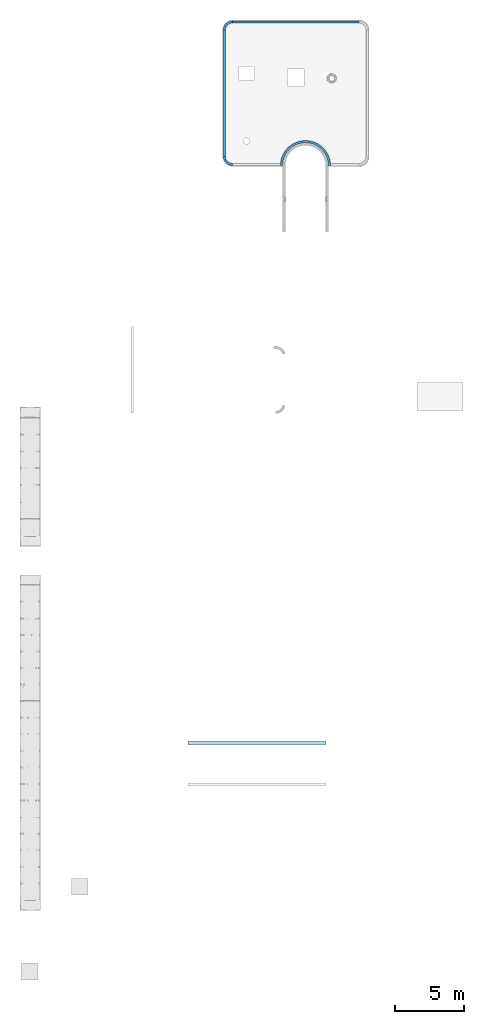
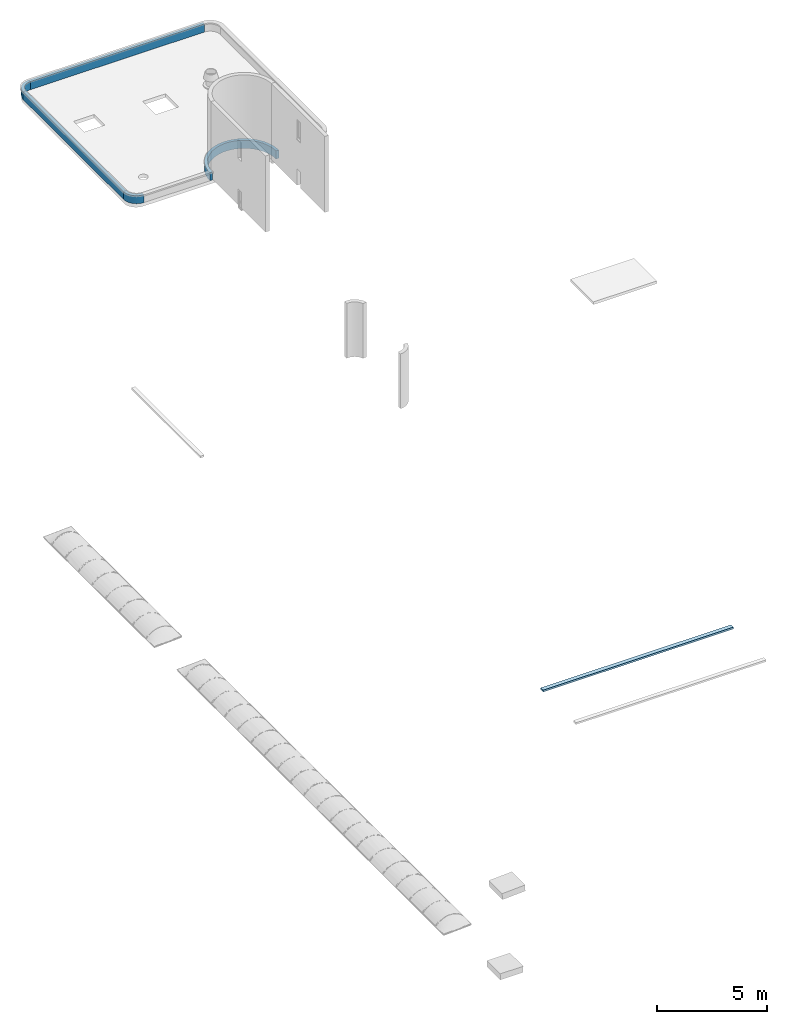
# One storey, part 1 of 2: 5 walls, 1 slab.
"""IFC2X3 building model written with IfcOpenShell, lengths in metres."""

from ifc_helpers import new_model, entity, si_unit, converted_unit, derived_unit, direction, frame, frame_2d, origin, place, context, subcontext, project, spatial, polyline, circle_curve, parameter, trimmed, segment, composite_curve, rectangle, outline, extrude, material, layer, layer_set, layer_usage, type_object, element, save


model = new_model("IFC2X3")

# Units and contexts
model_context = context("Model", 3, precision=1e-05, world=origin(), true_north=direction((6.12303176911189e-17, 1.0)))
body_context = subcontext(model_context, "Body", "Model", "MODEL_VIEW")
ifc_project = project(units=[si_unit("LENGTHUNIT", "METRE"), si_unit("AREAUNIT", "SQUARE_METRE"), si_unit("VOLUMEUNIT", "CUBIC_METRE"), converted_unit("PLANEANGLEUNIT", "DEGREE", entity("IfcRatioMeasure", 0.0174532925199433), si_unit("PLANEANGLEUNIT", "RADIAN"), dimensions=[0, 0, 0, 0, 0, 0, 0]), si_unit("MASSUNIT", "GRAM", prefix="KILO"), derived_unit("MASSDENSITYUNIT", [(si_unit("MASSUNIT", "GRAM", prefix="KILO"), 1), (si_unit("LENGTHUNIT", "METRE"), -3)]), derived_unit("MOMENTOFINERTIAUNIT", [(si_unit("LENGTHUNIT", "METRE"), 4)]), si_unit("TIMEUNIT", "SECOND"), si_unit("FREQUENCYUNIT", "HERTZ"), si_unit("THERMODYNAMICTEMPERATUREUNIT", "DEGREE_CELSIUS"), derived_unit("THERMALTRANSMITTANCEUNIT", [(si_unit("MASSUNIT", "GRAM", prefix="KILO"), 1), (si_unit("THERMODYNAMICTEMPERATUREUNIT", "KELVIN"), -1), (si_unit("TIMEUNIT", "SECOND"), -3)]), derived_unit("VOLUMETRICFLOWRATEUNIT", [(si_unit("LENGTHUNIT", "METRE"), 3), (si_unit("TIMEUNIT", "SECOND"), -1)]), si_unit("ELECTRICCURRENTUNIT", "AMPERE"), si_unit("ELECTRICVOLTAGEUNIT", "VOLT"), si_unit("POWERUNIT", "WATT"), si_unit("FORCEUNIT", "NEWTON", prefix="KILO"), si_unit("ILLUMINANCEUNIT", "LUX"), si_unit("LUMINOUSFLUXUNIT", "LUMEN"), si_unit("LUMINOUSINTENSITYUNIT", "CANDELA"), derived_unit("USERDEFINED", [(si_unit("MASSUNIT", "GRAM", prefix="KILO"), -1), (si_unit("LENGTHUNIT", "METRE"), -2), (si_unit("TIMEUNIT", "SECOND"), 3), (si_unit("LUMINOUSFLUXUNIT", "LUMEN"), 1)]), derived_unit("LINEARVELOCITYUNIT", [(si_unit("LENGTHUNIT", "METRE"), 1), (si_unit("TIMEUNIT", "SECOND"), -1)]), si_unit("PRESSUREUNIT", "PASCAL"), derived_unit("USERDEFINED", [(si_unit("LENGTHUNIT", "METRE"), -2), (si_unit("MASSUNIT", "GRAM", prefix="KILO"), 1), (si_unit("TIMEUNIT", "SECOND"), -2)]), derived_unit("LINEARFORCEUNIT", [(si_unit("MASSUNIT", "GRAM", prefix="KILO"), 1), (si_unit("LENGTHUNIT", "METRE"), 1), (si_unit("TIMEUNIT", "SECOND"), -2), (si_unit("LENGTHUNIT", "METRE"), -1)]), derived_unit("PLANARFORCEUNIT", [(si_unit("MASSUNIT", "GRAM", prefix="KILO"), 1), (si_unit("LENGTHUNIT", "METRE"), 1), (si_unit("TIMEUNIT", "SECOND"), -2), (si_unit("LENGTHUNIT", "METRE"), -2)])], contexts=[model_context])

# Site, building, storey
site_placement = place(None, origin())
site = spatial("IfcSite", under=ifc_project, at=site_placement, Name="Default", CompositionType="ELEMENT")
building_placement = place(site_placement, origin())
building = spatial("IfcBuilding", under=site, at=building_placement, CompositionType="ELEMENT")
storey_placement = place(building_placement, frame((0.0, 0.0, 5.77187276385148)))
storey = spatial("IfcBuildingStorey", under=building, at=storey_placement, Name="Niveau 1  - 03", CompositionType="ELEMENT", Elevation=5.77187276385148)

# Slab
ifc_material_1 = material(Name="étanchéité Isolation")
ifc_layer_1 = layer(ifc_material_1, 0.1)
ifc_layer_set_1 = layer_set([ifc_layer_1], Name="Sol:étanchéité terrasse 100mm")
ifc_layer_usage_1 = layer_usage(ifc_layer_set_1, "AXIS3", "POSITIVE", 0.0)
slab_type = type_object("IfcSlabType", Name="Sol:étanchéité terrasse 100mm", PredefinedType="FLOOR", material=ifc_layer_set_1)
slab_placement = place(storey_placement, origin())
element("IfcSlab", 1, at=slab_placement, inside=storey, type_object=slab_type, material=ifc_layer_usage_1, Name="Sol:étanchéité terrasse 100mm", ObjectType="Sol:étanchéité terrasse 100mm", PredefinedType="FLOOR", context=body_context, shape_type="SweptSolid", body=[
    extrude(rectangle(XDim=0.21999999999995, YDim=9.99631947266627, at=frame_2d((8.65973959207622e-15, 1.33226762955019e-15), x_axis=(1.0, 0.0))), frame((-20.7958294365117, -26.1885714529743, -0.539123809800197), z_axis=(0.0, 0.0, -1.0), x_axis=(0.0, 1.0, 0.0)), (0.0, 0.0, 1.0), 0.1),
])

# Walls
ifc_material_2 = material(Name="Mur par défaut")
ifc_layer_2 = layer(ifc_material_2, 0.15)
ifc_layer_set_2 = layer_set([ifc_layer_2], Name="Mur de base:@_Générique - Int. 150 mm")
ifc_layer_usage_2 = layer_usage(ifc_layer_set_2, "AXIS2", "NEGATIVE", 0.075)
wall_type = type_object("IfcWallType", Name="Mur de base:@_Générique - Int. 150 mm", PredefinedType="STANDARD", material=ifc_layer_set_2)
wall_1_placement = place(storey_placement, frame((-13.4151651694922, 26.0316444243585, 0.0), z_axis=(0.0, 0.0, 1.0), x_axis=(-1.0, 0.0, 0.0)))
element("IfcWallStandardCase", 2, at=wall_1_placement, inside=storey, type_object=wall_type, material=ifc_layer_usage_2, Name="Mur de base:@_Générique - Int. 150 mm", ObjectType="Mur de base:@_Générique - Int. 150 mm", context=body_context, shape_type="SweptSolid", body=[
    extrude(rectangle(XDim=9.15038525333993, YDim=0.150000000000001, at=frame_2d((4.57519262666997, 0.0), x_axis=(-1.0, 0.0))), origin(), (0.0, 0.0, 1.0), 0.45),
])
ifc_layer_usage_3 = layer_usage(ifc_layer_set_2, "AXIS2", "POSITIVE", -0.075)
wall_2_placement = place(storey_placement, frame((-23.1691642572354, 25.4280305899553, 0.0), z_axis=(0.0, 0.0, 1.0), x_axis=(1.06472614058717e-09, 1.0, 0.0)))
element("IfcWallStandardCase", 3, at=wall_2_placement, inside=storey, type_object=wall_type, material=ifc_layer_usage_3, Name="Mur de base:@_Générique - Int. 150 mm", ObjectType="Mur de base:@_Générique - Int. 150 mm", context=body_context, shape_type="SweptSolid", body=[
    extrude(outline(composite_curve([segment(trimmed(circle_curve(frame_2d((0.0, -0.60361383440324), x_axis=(1.0, 0.0)), 0.67861383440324), [parameter(6.10043110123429e-08)], [parameter(90.0000000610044)], True, "PARAMETER"), True, "CONTINUOUS"), segment(polyline([(0.0, 0.0750000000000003), (0.0, -0.0750000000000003)]), True, "CONTINUOUS"), segment(trimmed(circle_curve(frame_2d((0.0, -0.60361383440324), x_axis=(1.0, 0.0)), 0.52861383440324), [parameter(6.10043110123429e-08)], [parameter(90.0000000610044)], True, "PARAMETER"), False, "CONTINUOUS"), segment(polyline([(0.528613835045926, -0.603613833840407), (0.678613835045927, -0.603613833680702)]), True, "CONTINUOUS")], self_intersect=False)), origin(), (0.0, 0.0, 1.0), 0.45),
])
ifc_layer_usage_4 = layer_usage(ifc_layer_set_2, "AXIS2", "NEGATIVE", 0.075)
wall_3_placement = place(storey_placement, frame((-23.1691642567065, 16.2947745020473, 0.0), z_axis=(0.0, 0.0, 1.0), x_axis=(0.0, 1.0, 0.0)))
element("IfcWallStandardCase", 4, at=wall_3_placement, inside=storey, type_object=wall_type, material=ifc_layer_usage_4, Name="Mur de base:@_Générique - Int. 150 mm", ObjectType="Mur de base:@_Générique - Int. 150 mm", context=body_context, shape_type="SweptSolid", body=[
    extrude(rectangle(XDim=9.13325608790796, YDim=0.150000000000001, at=frame_2d((4.56662804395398, 5.13478148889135e-16), x_axis=(-1.0, 0.0))), origin(), (0.0, 0.0, 1.0), 0.45),
])
ifc_layer_usage_5 = layer_usage(ifc_layer_set_2, "AXIS2", "POSITIVE", -0.075)
wall_4_placement = place(storey_placement, frame((-22.5655504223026, 15.6911606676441, 0.0), z_axis=(0.0, 0.0, 1.0), x_axis=(-1.0, -1.0697612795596e-09, 0.0)))
element("IfcWallStandardCase", 5, at=wall_4_placement, inside=storey, type_object=wall_type, material=ifc_layer_usage_5, Name="Mur de base:@_Générique - Int. 150 mm", ObjectType="Mur de base:@_Générique - Int. 150 mm", context=body_context, shape_type="SweptSolid", body=[
    extrude(outline(composite_curve([segment(trimmed(circle_curve(frame_2d((0.0, -0.60361383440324), x_axis=(1.0, 0.0)), 0.67861383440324), [parameter(359.999999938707)], [parameter(89.9999999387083)], True, "PARAMETER"), True, "CONTINUOUS"), segment(polyline([(0.0, 0.0750000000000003), (0.0, -0.0750000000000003)]), True, "CONTINUOUS"), segment(trimmed(circle_curve(frame_2d((0.0, -0.60361383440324), x_axis=(1.0, 0.0)), 0.52861383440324), [parameter(359.999999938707)], [parameter(89.9999999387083)], True, "PARAMETER"), False, "CONTINUOUS"), segment(polyline([(0.52861383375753, -0.603613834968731), (0.678613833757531, -0.603613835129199)]), True, "CONTINUOUS")], self_intersect=False)), origin(), (0.0, 0.0, 1.0), 0.45),
])
ifc_layer_usage_6 = layer_usage(ifc_layer_set_2, "AXIS2", "NEGATIVE", 0.075)
wall_5_placement = place(storey_placement, frame((-15.5598495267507, 15.6055112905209, 0.0)))
element("IfcWallStandardCase", 6, at=wall_5_placement, inside=storey, type_object=wall_type, material=ifc_layer_usage_6, Name="Mur de base:@_Générique - Int. 150 mm", ObjectType="Mur de base:@_Générique - Int. 150 mm", context=body_context, shape_type="SweptSolid", body=[
    extrude(outline(composite_curve([segment(polyline([(-3.54492968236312, 0.010649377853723), (-3.39492920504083, 0.010649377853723)]), True, "CONTINUOUS"), segment(trimmed(circle_curve(frame_2d((-1.73493496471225, 0.0150222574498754), x_axis=(1.0, 0.0)), 1.66), [parameter(173.493932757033)], [parameter(180.150932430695)], True, "PARAMETER"), False, "CONTINUOUS"), segment(trimmed(circle_curve(frame_2d((-1.73493496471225, 0.0150222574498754), x_axis=(1.0, 0.0)), 1.66), [parameter(2.02478196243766)], [parameter(173.493932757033)], True, "PARAMETER"), False, "CONTINUOUS"), segment(trimmed(circle_curve(frame_2d((-1.73493496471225, 0.0150222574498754), x_axis=(1.0, 0.0)), 1.66), [parameter(359.503906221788)], [parameter(2.02478196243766)], True, "PARAMETER"), False, "CONTINUOUS"), segment(polyline([(-0.0749971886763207, 0.000649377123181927), (0.0750079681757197, 0.000649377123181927)]), True, "CONTINUOUS"), segment(polyline([(0.0750079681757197, 0.000649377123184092), (0.0740465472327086, 0.0757337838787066)]), True, "CONTINUOUS"), segment(polyline([(0.0740465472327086, 0.0757337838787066), (0.0699764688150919, 0.150649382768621)]), True, "CONTINUOUS"), segment(polyline([(0.0699764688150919, 0.150649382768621), (0.0531677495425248, 0.295715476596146)]), True, "CONTINUOUS"), segment(polyline([(0.0531677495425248, 0.295715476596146), (0.0247189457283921, 0.438953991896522)]), True, "CONTINUOUS"), segment(polyline([(0.0247189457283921, 0.438953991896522), (-0.01518467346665, 0.579432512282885)]), True, "CONTINUOUS"), segment(polyline([(-0.01518467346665, 0.579432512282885), (-0.0662832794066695, 0.716236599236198)]), True, "CONTINUOUS"), segment(polyline([(-0.0662832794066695, 0.716236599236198), (-0.128244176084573, 0.848475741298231)]), True, "CONTINUOUS"), segment(polyline([(-0.128244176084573, 0.848475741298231), (-0.200663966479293, 0.975289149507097)]), True, "CONTINUOUS"), segment(polyline([(-0.200663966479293, 0.975289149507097), (-0.283071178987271, 1.09585135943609)]), True, "CONTINUOUS"), segment(polyline([(-0.283071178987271, 1.09585135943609), (-0.374929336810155, 1.20937760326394)]), True, "CONTINUOUS"), segment(polyline([(-0.374929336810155, 1.20937760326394), (-0.47564045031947, 1.31512891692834)]), True, "CONTINUOUS"), segment(polyline([(-0.47564045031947, 1.31512891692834), (-0.584548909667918, 1.41241694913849)]), True, "CONTINUOUS"), segment(polyline([(-0.584548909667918, 1.41241694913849), (-0.70094575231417, 1.50060844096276)]), True, "CONTINUOUS"), segment(polyline([(-0.70094575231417, 1.50060844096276), (-0.824073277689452, 1.57912934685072)]), True, "CONTINUOUS"), segment(polyline([(-0.824073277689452, 1.57912934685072), (-0.953129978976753, 1.64746857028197)]), True, "CONTINUOUS"), segment(polyline([(-0.953129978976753, 1.64746857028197), (-1.08727575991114, 1.70518128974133)]), True, "CONTINUOUS"), segment(polyline([(-1.08727575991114, 1.70518128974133), (-1.22563740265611, 1.75189185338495)]), True, "CONTINUOUS"), segment(polyline([(-1.22563740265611, 1.75189185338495), (-1.36731425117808, 1.78729622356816)]), True, "CONTINUOUS"), segment(polyline([(-1.36731425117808, 1.78729622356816), (-1.51138407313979, 1.81116395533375)]), True, "CONTINUOUS"), segment(polyline([(-1.51138407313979, 1.81116395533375), (-1.65690906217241, 1.82333969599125)]), True, "CONTINUOUS"), segment(polyline([(-1.65690906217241, 1.82333969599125), (-1.80294194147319, 1.82374419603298)]), True, "CONTINUOUS"), segment(polyline([(-1.80294194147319, 1.82374419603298), (-1.94853212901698, 1.81237482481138)]), True, "CONTINUOUS"), segment(polyline([(-1.94853212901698, 1.81237482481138), (-2.09273192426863, 1.78930558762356)]), True, "CONTINUOUS"), segment(polyline([(-2.09273192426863, 1.78930558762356), (-2.23460267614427, 1.75468664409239)]), True, "CONTINUOUS"), segment(polyline([(-2.23460267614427, 1.75468664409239), (-2.37322089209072, 1.70874333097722)]), True, "CONTINUOUS"), segment(polyline([(-2.37322089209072, 1.70874333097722), (-2.50768424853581, 1.65177469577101)]), True, "CONTINUOUS"), segment(polyline([(-2.50768424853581, 1.65177469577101), (-2.63711746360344, 1.58415155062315)]), True, "CONTINUOUS"), segment(polyline([(-2.63711746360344, 1.58415155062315), (-2.76067799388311, 1.50631405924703)]), True, "CONTINUOUS"), segment(polyline([(-2.76067799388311, 1.50631405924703), (-2.87756151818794, 1.41876887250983)]), True, "CONTINUOUS"), segment(polyline([(-2.87756151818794, 1.41876887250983), (-2.98700717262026, 1.32208583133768)]), True, "CONTINUOUS"), segment(polyline([(-2.98700717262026, 1.32208583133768), (-3.08830250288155, 1.21689425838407)]), True, "CONTINUOUS"), segment(polyline([(-3.08830250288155, 1.21689425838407), (-3.18078810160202, 1.10387886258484)]), True, "CONTINUOUS"), segment(polyline([(-3.18078810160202, 1.10387886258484), (-3.26386190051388, 0.983775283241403)]), True, "CONTINUOUS"), segment(polyline([(-3.26386190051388, 0.983775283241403), (-3.33698308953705, 0.857365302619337)]), True, "CONTINUOUS"), segment(polyline([(-3.33698308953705, 0.857365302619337), (-3.39967563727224, 0.725471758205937)]), True, "CONTINUOUS"), segment(polyline([(-3.39967563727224, 0.725471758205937), (-3.45153138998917, 0.588953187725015)]), True, "CONTINUOUS"), segment(polyline([(-3.45153138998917, 0.588953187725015), (-3.49221272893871, 0.448698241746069)]), True, "CONTINUOUS"), segment(polyline([(-3.49221272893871, 0.448698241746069), (-3.52145476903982, 0.305619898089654)]), True, "CONTINUOUS"), segment(polyline([(-3.52145476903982, 0.305619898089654), (-3.53906720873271, 0.160647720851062)]), True, "CONTINUOUS"), segment(polyline([(-3.53906720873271, 0.160647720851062), (-3.54355291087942, 0.0857408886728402)]), True, "CONTINUOUS"), segment(polyline([(-3.54355291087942, 0.0857408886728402), (-3.54492968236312, 0.0106493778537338)]), True, "CONTINUOUS")], self_intersect=False)), origin(), (0.0, 0.0, 1.0), 0.45),
])

save(model, "model.ifc")
